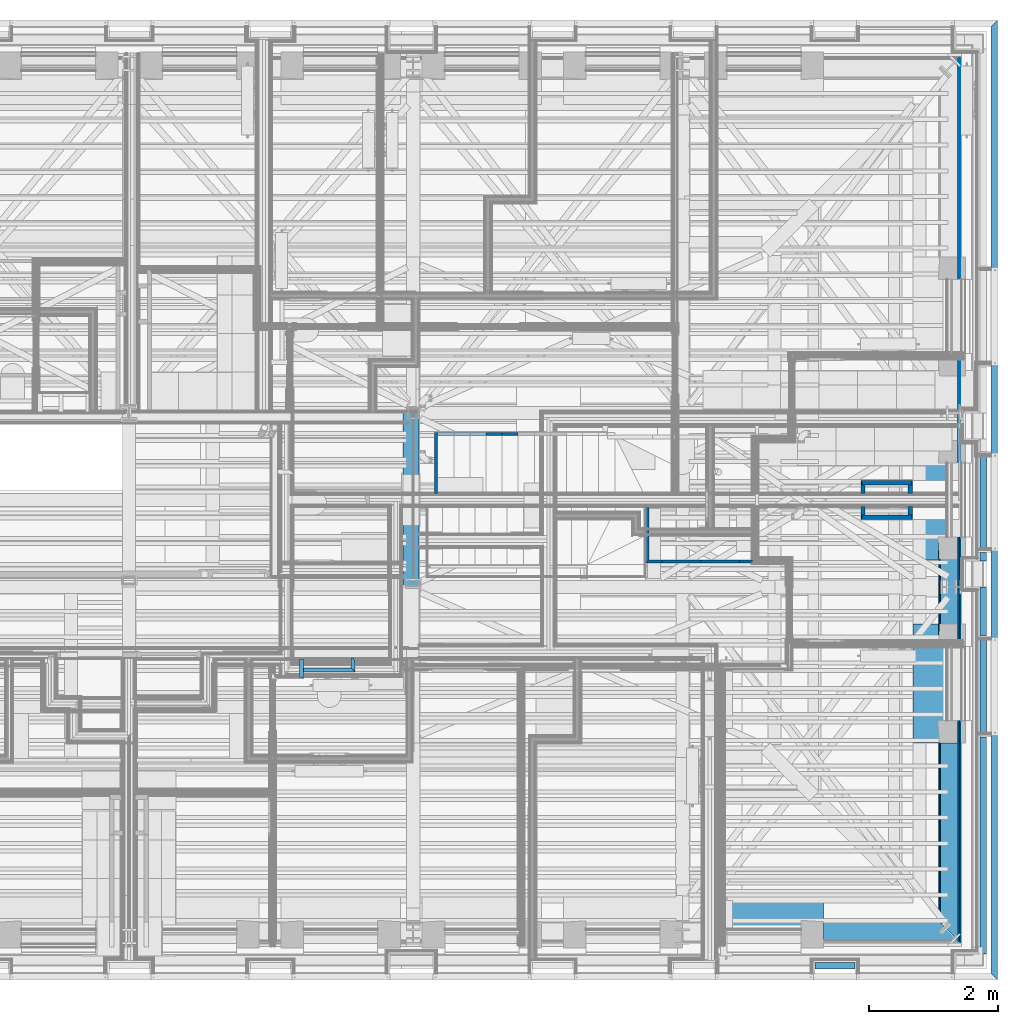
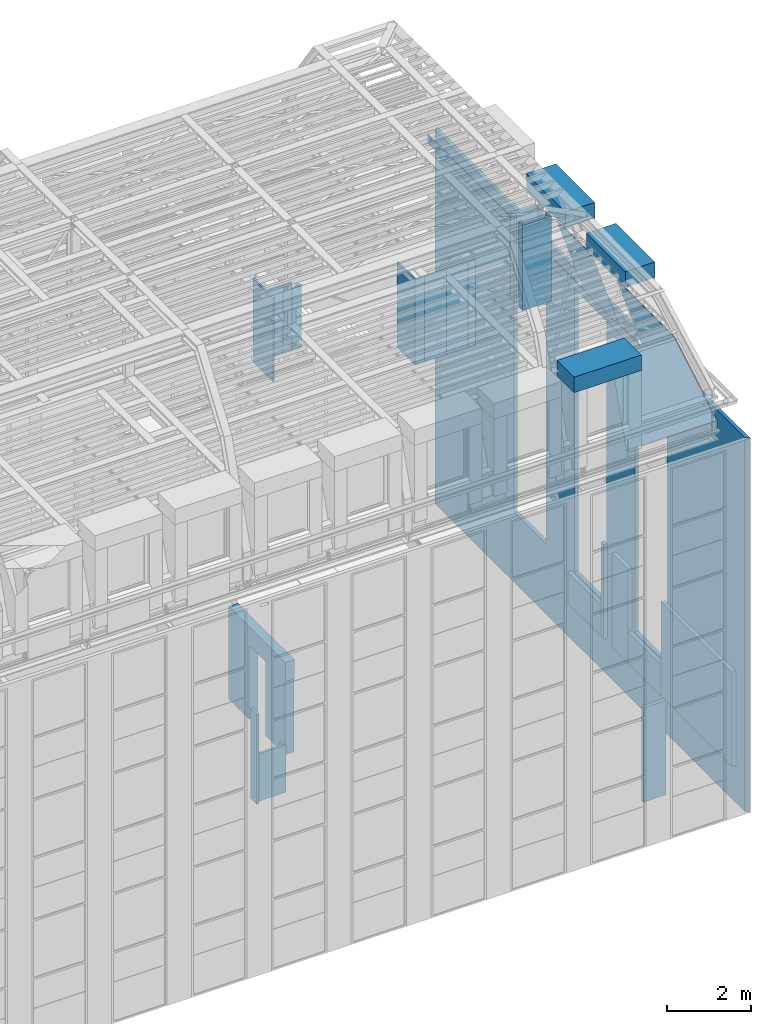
# One storey, part 20 of 183: 40 walls, 5 openings.
"""IFC2X3 building model written with IfcOpenShell, lengths in metres."""

from ifc_helpers import new_model, entity, si_unit, converted_unit, derived_unit, money_unit, direction, frame, frame_2d, origin_with_axes, place, context, subcontext, project, spatial, polyline, rectangle, outline, extrude, clip, halfspace, material, layer, layer_set, layer_usage, type_object, element, save


model = new_model("IFC2X3")

# Units and contexts
model_context = context("Model", 3, precision=1e-05, world=origin_with_axes(), true_north=direction((0.0, 1.0)))
body_context = subcontext(model_context, "Body", "Model", "MODEL_VIEW", scale=1.0)
ifc_project = project(units=[si_unit("LENGTHUNIT", "METRE"), si_unit("AREAUNIT", "SQUARE_METRE"), si_unit("VOLUMEUNIT", "CUBIC_METRE"), si_unit("ABSORBEDDOSEUNIT", "GRAY"), si_unit("AMOUNTOFSUBSTANCEUNIT", "MOLE"), si_unit("DOSEEQUIVALENTUNIT", "SIEVERT"), si_unit("ELECTRICCAPACITANCEUNIT", "FARAD"), si_unit("ELECTRICCHARGEUNIT", "COULOMB"), si_unit("ELECTRICCONDUCTANCEUNIT", "SIEMENS"), si_unit("ELECTRICCURRENTUNIT", "AMPERE"), si_unit("ELECTRICRESISTANCEUNIT", "OHM"), si_unit("ELECTRICVOLTAGEUNIT", "VOLT"), si_unit("ENERGYUNIT", "JOULE"), si_unit("FORCEUNIT", "NEWTON"), si_unit("FREQUENCYUNIT", "HERTZ"), si_unit("ILLUMINANCEUNIT", "LUX"), si_unit("INDUCTANCEUNIT", "HENRY"), si_unit("LUMINOUSFLUXUNIT", "LUMEN"), si_unit("LUMINOUSINTENSITYUNIT", "CANDELA"), si_unit("MAGNETICFLUXDENSITYUNIT", "TESLA"), si_unit("MAGNETICFLUXUNIT", "WEBER"), si_unit("MASSUNIT", "GRAM"), converted_unit("PLANEANGLEUNIT", "degree", entity("IfcReal", 0.0174532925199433), si_unit("PLANEANGLEUNIT", "RADIAN"), dimensions=[0, 0, 0, 0, 0, 0, 0]), si_unit("POWERUNIT", "WATT"), si_unit("PRESSUREUNIT", "PASCAL"), si_unit("RADIOACTIVITYUNIT", "BECQUEREL"), si_unit("SOLIDANGLEUNIT", "STERADIAN"), si_unit("THERMODYNAMICTEMPERATUREUNIT", "KELVIN"), si_unit("TIMEUNIT", "SECOND"), derived_unit("ACCELERATIONUNIT", [(si_unit("LENGTHUNIT", "METRE"), 1), (si_unit("TIMEUNIT", "SECOND"), -2)]), derived_unit("ANGULARVELOCITYUNIT", [(converted_unit("PLANEANGLEUNIT", "degree", entity("IfcReal", 0.0174532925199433), si_unit("PLANEANGLEUNIT", "RADIAN"), dimensions=[0, 0, 0, 0, 0, 0, 0]), 1), (si_unit("TIMEUNIT", "SECOND"), -1)]), derived_unit("CURVATUREUNIT", [(converted_unit("PLANEANGLEUNIT", "degree", entity("IfcReal", 0.0174532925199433), si_unit("PLANEANGLEUNIT", "RADIAN"), dimensions=[0, 0, 0, 0, 0, 0, 0]), 1), (si_unit("LENGTHUNIT", "METRE"), -1)]), derived_unit("DYNAMICVISCOSITYUNIT", [(si_unit("PRESSUREUNIT", "PASCAL"), 1), (si_unit("TIMEUNIT", "SECOND"), 1)]), derived_unit("HEATFLUXDENSITYUNIT", [(si_unit("POWERUNIT", "WATT"), 1), (si_unit("LENGTHUNIT", "METRE"), -2)]), derived_unit("HEATINGVALUEUNIT", [(si_unit("ENERGYUNIT", "JOULE"), 1), (si_unit("MASSUNIT", "GRAM"), -1)]), derived_unit("INTEGERCOUNTRATEUNIT", [(si_unit("TIMEUNIT", "SECOND"), -1)]), derived_unit("IONCONCENTRATIONUNIT", [(si_unit("MASSUNIT", "GRAM"), 1), (si_unit("VOLUMEUNIT", "CUBIC_METRE"), -1)]), derived_unit("ISOTHERMALMOISTURECAPACITYUNIT", [(si_unit("VOLUMEUNIT", "CUBIC_METRE"), 1), (si_unit("MASSUNIT", "GRAM"), -1)]), derived_unit("KINEMATICVISCOSITYUNIT", [(si_unit("AREAUNIT", "SQUARE_METRE"), 1), (si_unit("TIMEUNIT", "SECOND"), -1)]), derived_unit("LINEARFORCEUNIT", [(si_unit("FORCEUNIT", "NEWTON"), 1), (si_unit("LENGTHUNIT", "METRE"), -1)]), derived_unit("LINEARMOMENTUNIT", [(si_unit("FORCEUNIT", "NEWTON"), 1), (si_unit("LENGTHUNIT", "METRE"), -1)]), derived_unit("LINEARSTIFFNESSUNIT", [(si_unit("FORCEUNIT", "NEWTON"), 1), (si_unit("LENGTHUNIT", "METRE"), -1)]), derived_unit("LINEARVELOCITYUNIT", [(si_unit("LENGTHUNIT", "METRE"), 1), (si_unit("TIMEUNIT", "SECOND"), -1)]), derived_unit("LUMINOUSINTENSITYDISTRIBUTIONUNIT", [(si_unit("LUMINOUSINTENSITYUNIT", "CANDELA"), 1), (si_unit("LUMINOUSFLUXUNIT", "LUMEN"), -1)]), derived_unit("MASSDENSITYUNIT", [(si_unit("MASSUNIT", "GRAM"), 1), (si_unit("VOLUMEUNIT", "CUBIC_METRE"), -1)]), derived_unit("MASSFLOWRATEUNIT", [(si_unit("MASSUNIT", "GRAM"), 1), (si_unit("TIMEUNIT", "SECOND"), -1)]), derived_unit("MASSPERLENGTHUNIT", [(si_unit("MASSUNIT", "GRAM"), 1), (si_unit("LENGTHUNIT", "METRE"), -1)]), derived_unit("MODULUSOFELASTICITYUNIT", [(si_unit("FORCEUNIT", "NEWTON"), 1), (si_unit("AREAUNIT", "SQUARE_METRE"), -1)]), derived_unit("MODULUSOFLINEARSUBGRADEREACTIONUNIT", [(si_unit("FORCEUNIT", "NEWTON"), 1), (si_unit("LENGTHUNIT", "METRE"), -2)]), derived_unit("MODULUSOFROTATIONALSUBGRADEREACTIONUNIT", [(si_unit("FORCEUNIT", "NEWTON"), 1), (si_unit("LENGTHUNIT", "METRE"), 1)]), derived_unit("MODULUSOFSUBGRADEREACTIONUNIT", [(si_unit("FORCEUNIT", "NEWTON"), 1), (si_unit("VOLUMEUNIT", "CUBIC_METRE"), -1)]), derived_unit("MOISTUREDIFFUSIVITYUNIT", [(si_unit("VOLUMEUNIT", "CUBIC_METRE"), 1), (si_unit("TIMEUNIT", "SECOND"), -1)]), derived_unit("MOLECULARWEIGHTUNIT", [(si_unit("MASSUNIT", "GRAM"), 1), (si_unit("AMOUNTOFSUBSTANCEUNIT", "MOLE"), -1)]), derived_unit("PLANARFORCEUNIT", [(si_unit("FORCEUNIT", "NEWTON"), 1), (si_unit("LENGTHUNIT", "METRE"), -2)]), derived_unit("ROTATIONALFREQUENCYUNIT", [(si_unit("TIMEUNIT", "SECOND"), -1)]), derived_unit("ROTATIONALMASSUNIT", [(si_unit("MASSUNIT", "GRAM"), 1), (si_unit("LENGTHUNIT", "METRE"), 2)]), derived_unit("ROTATIONALSTIFFNESSUNIT", [(si_unit("FORCEUNIT", "NEWTON"), 1), (si_unit("LENGTHUNIT", "METRE"), 1), (converted_unit("PLANEANGLEUNIT", "degree", entity("IfcReal", 0.0174532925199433), si_unit("PLANEANGLEUNIT", "RADIAN"), dimensions=[0, 0, 0, 0, 0, 0, 0]), -1)]), derived_unit("SECTIONAREAINTEGRALUNIT", [(si_unit("LENGTHUNIT", "METRE"), 5)]), derived_unit("SECTIONMODULUSUNIT", [(si_unit("LENGTHUNIT", "METRE"), 3)]), derived_unit("SHEARMODULUSUNIT", [(si_unit("FORCEUNIT", "NEWTON"), 1), (si_unit("AREAUNIT", "SQUARE_METRE"), -1)]), derived_unit("SOUNDPOWERUNIT", [(si_unit("ENERGYUNIT", "JOULE"), 1), (si_unit("TIMEUNIT", "SECOND"), -1)]), derived_unit("SPECIFICHEATCAPACITYUNIT", [(si_unit("FORCEUNIT", "NEWTON"), 1), (si_unit("MASSUNIT", "GRAM"), -1), (si_unit("THERMODYNAMICTEMPERATUREUNIT", "KELVIN"), -1)]), derived_unit("TEMPERATUREGRADIENTUNIT", [(si_unit("THERMODYNAMICTEMPERATUREUNIT", "KELVIN"), 1), (si_unit("LENGTHUNIT", "METRE"), -1)]), derived_unit("THERMALADMITTANCEUNIT", [(si_unit("POWERUNIT", "WATT"), 1), (si_unit("AREAUNIT", "SQUARE_METRE"), -1), (si_unit("THERMODYNAMICTEMPERATUREUNIT", "KELVIN"), -1)]), derived_unit("THERMALCONDUCTANCEUNIT", [(si_unit("POWERUNIT", "WATT"), 1), (si_unit("LENGTHUNIT", "METRE"), -1), (si_unit("THERMODYNAMICTEMPERATUREUNIT", "KELVIN"), -1)]), derived_unit("THERMALEXPANSIONCOEFFICIENTUNIT", [(si_unit("THERMODYNAMICTEMPERATUREUNIT", "KELVIN"), -1)]), derived_unit("THERMALRESISTANCEUNIT", [(si_unit("AREAUNIT", "SQUARE_METRE"), 1), (si_unit("POWERUNIT", "WATT"), -1)]), derived_unit("THERMALTRANSMITTANCEUNIT", [(si_unit("POWERUNIT", "WATT"), 1), (si_unit("AREAUNIT", "SQUARE_METRE"), -1), (si_unit("THERMODYNAMICTEMPERATUREUNIT", "KELVIN"), -1)]), derived_unit("TORQUEUNIT", [(si_unit("FORCEUNIT", "NEWTON"), 1), (si_unit("LENGTHUNIT", "METRE"), 1)]), derived_unit("VAPORPERMEABILITYUNIT", [(si_unit("MASSUNIT", "GRAM"), 1), (si_unit("TIMEUNIT", "SECOND"), -1)]), derived_unit("VOLUMETRICFLOWRATEUNIT", [(si_unit("VOLUMEUNIT", "CUBIC_METRE"), 1), (si_unit("TIMEUNIT", "SECOND"), -1)]), derived_unit("WARPINGCONSTANTUNIT", [(si_unit("LENGTHUNIT", "METRE"), 6)]), derived_unit("WARPINGMOMENTUNIT", [(si_unit("FORCEUNIT", "NEWTON"), 1), (si_unit("LENGTHUNIT", "METRE"), 2)]), money_unit("GBP")], contexts=[model_context])

# Site, building, storey
site_placement = place(None, origin_with_axes())
site = spatial("IfcSite", under=ifc_project, at=site_placement, Name="Site", CompositionType="ELEMENT")
building_placement = place(site_placement, origin_with_axes())
building = spatial("IfcBuilding", under=site, at=building_placement, Name="Building01", CompositionType="ELEMENT")
storey_placement = place(building_placement, frame((0.0, 0.0, 5.15), z_axis=(0.0, 0.0, 1.0), x_axis=(1.0, 0.0, 0.0)))
storey = spatial("IfcBuildingStorey", under=building, at=storey_placement, Name="1F", CompositionType="ELEMENT", Elevation=5.15)

# Wall, openings
ifc_material_1 = material(Name="A_BSUK_WallsExternal_Brick")
ifc_layer_1 = layer(ifc_material_1, 0.1, ventilated=False)
ifc_layer_set_1 = layer_set([ifc_layer_1])
ifc_layer_usage_1 = layer_usage(ifc_layer_set_1, "AXIS2", "POSITIVE", 0.0)
wall_type_1 = type_object("IfcWallType", Name="A-Walls-ExternalBrick", PredefinedType="NOTDEFINED")
wall_1_placement = place(storey_placement, frame((26.88, 0.1, -1.18), z_axis=(0.0, 0.0, 1.0), x_axis=(0.0, 1.0, 0.0)))
wall_1 = element("IfcWallStandardCase", 1, at=wall_1_placement, inside=storey, type_object=wall_type_1, material=ifc_layer_usage_1, Name="A-Walls-ExternalBrick", ObjectType="A-Walls-ExternalBrick", context=body_context, shape_type="SweptSolid", body=[
    extrude(outline(polyline([(14.7, 0.0), (0.0, 0.0), (-0.1, -0.1), (14.8, -0.1), (14.7, 0.0)])), origin_with_axes(), (0.0, 0.0, 1.0), 10.850238),
])
opening_1_placement = place(wall_1_placement, frame((9.43718, -0.1, 2.045508), z_axis=(0.0, 0.0, 1.0), x_axis=(1.0, 0.0, 0.0)))
element("IfcOpeningElement", 2, at=opening_1_placement, cuts=wall_1, Name="Opening", ObjectType="Opening", context=body_context, shape_type="SweptSolid", body=[
    extrude(rectangle(XDim=1.52, YDim=8.7, at=frame_2d((-0.76, 4.35), x_axis=(-1.0, 0.0))), frame((0.0, 0.0, 0.0), z_axis=(0.0, 1.0, 0.0), x_axis=(-1.0, 0.0, 0.0)), (0.0, 0.0, 1.0), 0.1),
])
opening_2_placement = place(wall_1_placement, frame((3.69718, -0.1, 2.045508), z_axis=(0.0, 0.0, 1.0), x_axis=(1.0, 0.0, 0.0)))
element("IfcOpeningElement", 3, at=opening_2_placement, cuts=wall_1, Name="Opening", ObjectType="Opening", context=body_context, shape_type="SweptSolid", body=[
    extrude(rectangle(XDim=1.52, YDim=8.7, at=frame_2d((-0.76, 4.35), x_axis=(-1.0, 0.0))), frame((0.0, 0.0, 0.0), z_axis=(0.0, 1.0, 0.0), x_axis=(-1.0, 0.0, 0.0)), (0.0, 0.0, 1.0), 0.1),
])
opening_3_placement = place(wall_1_placement, frame((6.557326, -0.1, 2.050108), z_axis=(0.0, 0.0, 1.0), x_axis=(1.0, 0.0, 0.0)))
element("IfcOpeningElement", 4, at=opening_3_placement, cuts=wall_1, Name="Opening", ObjectType="Opening", context=body_context, shape_type="SweptSolid", body=[
    extrude(rectangle(XDim=1.52, YDim=8.7, at=frame_2d((-0.76, 4.35), x_axis=(-1.0, 0.0))), frame((0.0, 0.0, 0.0), z_axis=(0.0, 1.0, 0.0), x_axis=(-1.0, 0.0, 0.0)), (0.0, 0.0, 1.0), 0.1),
])

# Walls
ifc_material_2 = material(Name="A_BSUK_WallsExternal_Block")
ifc_layer_2 = layer(ifc_material_2, 0.1, ventilated=False)
ifc_layer_set_2 = layer_set([ifc_layer_2])
ifc_layer_usage_2 = layer_usage(ifc_layer_set_2, "AXIS2", "POSITIVE", 0.0)
wall_type_2 = type_object("IfcWallType", Name="A-Walls-ExternalBlock", PredefinedType="NOTDEFINED")
wall_2_placement = place(storey_placement, frame((24.767, 0.27, 0.0), z_axis=(0.0, 0.0, 1.0), x_axis=(-1.0, 0.0, 0.0)))
element("IfcWallStandardCase", 5, at=wall_2_placement, inside=storey, type_object=wall_type_2, material=ifc_layer_usage_2, Name="A-Walls-ExternalBlock", ObjectType="A-Walls-ExternalBlock", context=body_context, shape_type="SweptSolid", body=[
    extrude(rectangle(XDim=0.624, YDim=0.1, at=frame_2d((0.312, 0.05), x_axis=(-1.0, 0.0))), origin_with_axes(), (0.0, 0.0, 1.0), 2.74),
])
wall_3_placement = place(storey_placement, frame((26.71, 3.77418, 0.0), z_axis=(0.0, 0.0, 1.0), x_axis=(0.0, -1.0, 0.0)))
element("IfcWallStandardCase", 6, at=wall_3_placement, inside=storey, type_object=wall_type_2, material=ifc_layer_usage_2, Name="A-Walls-ExternalBlock", ObjectType="A-Walls-ExternalBlock", context=body_context, shape_type="SweptSolid", body=[
    extrude(rectangle(XDim=0.1, YDim=3.37418, at=frame_2d((1.68709, 0.05), x_axis=(0.0, -1.0))), origin_with_axes(), (0.0, 0.0, 1.0), 2.74),
])
wall_4_placement = place(storey_placement, frame((26.71, 6.634304, 0.0), z_axis=(0.0, 0.0, 1.0), x_axis=(0.0, -1.0, 0.0)))
element("IfcWallStandardCase", 7, at=wall_4_placement, inside=storey, type_object=wall_type_2, material=ifc_layer_usage_2, Name="A-Walls-ExternalBlock", ObjectType="A-Walls-ExternalBlock", context=body_context, shape_type="SweptSolid", body=[
    extrude(rectangle(XDim=0.1, YDim=0.134304, at=frame_2d((0.067152, 0.05), x_axis=(0.0, -1.0))), origin_with_axes(), (0.0, 0.0, 1.0), 2.74),
])
wall_5_placement = place(storey_placement, frame((26.71, 6.1, 0.0), z_axis=(0.0, 0.0, 1.0), x_axis=(0.0, -1.0, 0.0)))
element("IfcWallStandardCase", 8, at=wall_5_placement, inside=storey, type_object=wall_type_2, material=ifc_layer_usage_2, Name="A-Walls-ExternalBlock", ObjectType="A-Walls-ExternalBlock", context=body_context, shape_type="SweptSolid", body=[
    extrude(rectangle(XDim=0.75982, YDim=0.1, at=frame_2d((0.37991, 0.05), x_axis=(-1.0, 0.0))), origin_with_axes(), (0.0, 0.0, 1.0), 2.74),
])
wall_6_placement = place(storey_placement, frame((26.71, 5.34018, 0.0), z_axis=(0.0, 0.0, 1.0), x_axis=(0.0, -1.0, 0.0)))
element("IfcWallStandardCase", 9, at=wall_6_placement, inside=storey, type_object=wall_type_2, material=ifc_layer_usage_2, Name="A-Walls-ExternalBlock", ObjectType="A-Walls-ExternalBlock", context=body_context, shape_type="SweptSolid", body=[
    extrude(rectangle(XDim=1.566, YDim=0.1, at=frame_2d((0.783, 0.05), x_axis=(1.0, 0.0))), origin_with_axes(), (0.0, 0.0, 1.0), 0.915),
])
wall_7_placement = place(storey_placement, frame((26.71, 8.200304, 0.0), z_axis=(0.0, 0.0, 1.0), x_axis=(0.0, -1.0, 0.0)))
element("IfcWallStandardCase", 10, at=wall_7_placement, inside=storey, type_object=wall_type_2, material=ifc_layer_usage_2, Name="A-Walls-ExternalBlock", ObjectType="A-Walls-ExternalBlock", context=body_context, shape_type="SweptSolid", body=[
    extrude(rectangle(XDim=1.565978, YDim=0.1, at=frame_2d((0.782989, 0.05), x_axis=(1.0, 0.0))), origin_with_axes(), (0.0, 0.0, 1.0), 0.915),
])
ifc_material_3 = material(Name="A_BSUK_WallsInternal")
ifc_layer_3 = layer(ifc_material_3, 0.025, ventilated=False)
ifc_layer_set_3 = layer_set([ifc_layer_3])
ifc_layer_usage_3 = layer_usage(ifc_layer_set_3, "AXIS2", "POSITIVE", 0.0)
wall_type_3 = type_object("IfcWallType", Name="A-Walls-Internal", PredefinedType="NOTDEFINED")
wall_8_placement = place(storey_placement, frame((26.4012, 7.45, 9.78), z_axis=(0.0, 0.0, 1.0), x_axis=(0.0, -1.0, 0.0)))
element("IfcWallStandardCase", 11, at=wall_8_placement, inside=storey, type_object=wall_type_3, material=ifc_layer_usage_3, Name="7C", ObjectType="A-Walls-Internal", context=body_context, shape_type="SweptSolid", body=[
    extrude(outline(polyline([(6.8712, 0.0), (0.0, 0.0), (0.0, -0.025), (6.8462, -0.025), (6.8712, 0.0)])), origin_with_axes(), (0.0, 0.0, 1.0), 0.25),
])
ifc_layer_4 = layer(ifc_material_3, 0.05, ventilated=False)
ifc_layer_set_4 = layer_set([ifc_layer_4])
ifc_layer_usage_4 = layer_usage(ifc_layer_set_4, "AXIS2", "POSITIVE", 0.0)
wall_9_placement = place(storey_placement, frame((18.289976, 7.549915, 9.78), z_axis=(0.0, 0.0, 1.0), x_axis=(0.0, 1.0, 0.0)))
element("IfcWallStandardCase", 12, at=wall_9_placement, inside=storey, type_object=wall_type_3, material=ifc_layer_usage_4, Name="A-Walls-Internal", ObjectType="A-Walls-Internal", context=body_context, shape_type="SweptSolid", body=[
    extrude(rectangle(XDim=0.05, YDim=0.95, at=frame_2d((0.475, 0.025), x_axis=(0.0, -1.0))), origin_with_axes(), (0.0, 0.0, 1.0), 2.443),
])
wall_10_placement = place(storey_placement, frame((19.039976, 8.449915, 9.78), z_axis=(0.0, 0.0, 1.0), x_axis=(1.0, 0.0, 0.0)))
element("IfcWallStandardCase", 13, at=wall_10_placement, inside=storey, type_object=wall_type_3, material=ifc_layer_usage_4, Name="A-Walls-Internal", ObjectType="A-Walls-Internal", context=body_context, shape_type="SweptSolid", body=[
    extrude(rectangle(XDim=0.25, YDim=0.05, at=frame_2d((0.125, 0.025), x_axis=(1.0, 0.0))), origin_with_axes(), (0.0, 0.0, 1.0), 1.98),
])
wall_11_placement = place(storey_placement, frame((18.289976, 8.449915, 9.78), z_axis=(0.0, 0.0, 1.0), x_axis=(1.0, 0.0, 0.0)))
element("IfcWallStandardCase", 14, at=wall_11_placement, inside=storey, type_object=wall_type_3, material=ifc_layer_usage_4, Name="A-Walls-Internal", ObjectType="A-Walls-Internal", context=body_context, shape_type="SweptSolid", body=[
    extrude(rectangle(XDim=0.05, YDim=0.75, at=frame_2d((0.375, 0.025), x_axis=(0.0, -1.0))), origin_with_axes(), (0.0, 0.0, 1.0), 1.98),
])
wall_12_placement = place(storey_placement, frame((19.289976, 8.449915, 9.78), z_axis=(0.0, 0.0, 1.0), x_axis=(1.0, 0.0, 0.0)))
element("IfcWallStandardCase", 15, at=wall_12_placement, inside=storey, type_object=wall_type_3, material=ifc_layer_usage_4, Name="A-Walls-Internal", ObjectType="A-Walls-Internal", context=body_context, shape_type="SweptSolid", body=[
    extrude(rectangle(XDim=0.25, YDim=0.05, at=frame_2d((0.125, 0.025), x_axis=(1.0, 0.0))), origin_with_axes(), (0.0, 0.0, 1.0), 1.8),
])
wall_13_placement = place(storey_placement, frame((21.51844, 7.334915, 9.78), z_axis=(0.0, 0.0, 1.0), x_axis=(0.0, -1.0, 0.0)))
element("IfcWallStandardCase", 16, at=wall_13_placement, inside=storey, type_object=wall_type_3, material=ifc_layer_usage_4, Name="A-Walls-Internal", ObjectType="A-Walls-Internal", context=body_context, shape_type="SweptSolid", body=[
    extrude(outline(polyline([(0.81483, 0.05), (0.0, 0.05), (0.0, 0.0), (0.86483, 0.0), (0.81483, 0.05)])), origin_with_axes(), (0.0, 0.0, 1.0), 2.468),
])
wall_14_placement = place(storey_placement, frame((21.51844, 6.470085, 9.78), z_axis=(0.0, 0.0, 1.0), x_axis=(1.0, 0.0, 0.0)))
element("IfcWallStandardCase", 17, at=wall_14_placement, inside=storey, type_object=wall_type_3, material=ifc_layer_usage_4, Name="A-Walls-Internal", ObjectType="A-Walls-Internal", context=body_context, shape_type="SweptSolid", body=[
    extrude(outline(polyline([(0.05, 0.05), (0.0, 0.0), (0.255191, 0.0), (0.255191, 0.05), (0.05, 0.05)])), origin_with_axes(), (0.0, 0.0, 1.0), 2.468),
])
for number, where, z_axis, x_axis, name in (
    (18, (21.773631, 6.470085, 9.78), (0.0, 0.0, 1.0), (1.0, 0.0, 0.0), "A-Walls-Internal"),
    (19, (22.373631, 6.470085, 9.78), (0.0, 0.0, 1.0), (1.0, 0.0, 0.0), "A-Walls-Internal"),
):
    element("IfcWallStandardCase", number, at=place(storey_placement, frame(where, z_axis=z_axis, x_axis=x_axis)), inside=storey, type_object=wall_type_3, material=ifc_layer_usage_4, Name=name, ObjectType="A-Walls-Internal", context=body_context, shape_type="SweptSolid", body=[
        extrude(rectangle(XDim=0.6, YDim=0.05, at=frame_2d((0.3, 0.025), x_axis=(1.0, 0.0))), origin_with_axes(), (0.0, 0.0, 1.0), 2.468),
    ])
wall_15_placement = place(storey_placement, frame((22.973631, 6.470085, 9.78), z_axis=(0.0, 0.0, 1.0), x_axis=(1.0, 0.0, 0.0)))
element("IfcWallStandardCase", 20, at=wall_15_placement, inside=storey, type_object=wall_type_3, material=ifc_layer_usage_4, Name="A-Walls-Internal", ObjectType="A-Walls-Internal", context=body_context, shape_type="SweptSolid", body=[
    extrude(rectangle(XDim=0.205191, YDim=0.05, at=frame_2d((0.102595, 0.025), x_axis=(-1.0, 0.0))), origin_with_axes(), (0.0, 0.0, 1.0), 2.468),
])
ifc_layer_5 = layer(ifc_material_3, 0.015, ventilated=False)
ifc_layer_set_5 = layer_set([ifc_layer_5])
ifc_layer_usage_5 = layer_usage(ifc_layer_set_5, "AXIS2", "POSITIVE", 0.0)
wall_16_placement = place(storey_placement, frame((26.4012, 14.3062, 9.78), z_axis=(0.0, 0.0, 1.0), x_axis=(0.0, -1.0, 0.0)))
element("IfcWallStandardCase", 21, at=wall_16_placement, inside=storey, type_object=wall_type_3, material=ifc_layer_usage_5, Name="7C", ObjectType="A-Walls-Internal", context=body_context, shape_type="SweptSolid", body=[
    extrude(rectangle(XDim=13.7124, YDim=0.015, at=frame_2d((6.8562, -0.0075), x_axis=(-1.0, 0.0))), origin_with_axes(), (0.0, 0.0, 1.0), 0.25),
])
wall_17_placement = place(storey_placement, frame((26.3862, 14.2912, 9.78), z_axis=(0.0, 0.0, 1.0), x_axis=(0.0, -1.0, 0.0)))
element("IfcWallStandardCase", 22, at=wall_17_placement, inside=storey, type_object=wall_type_3, material=ifc_layer_usage_5, Name="7C", ObjectType="A-Walls-Internal", context=body_context, shape_type="SweptSolid", body=[
    extrude(rectangle(XDim=13.6824, YDim=0.015, at=frame_2d((6.8412, -0.0075), x_axis=(-1.0, 0.0))), origin_with_axes(), (0.0, 0.0, 1.0), 0.25),
])
ifc_material_4 = material(Name="A_BSUK_Walls_Timber")
ifc_layer_6 = layer(ifc_material_4, 0.015, ventilated=False)
ifc_material_5 = material(Name="A_BSUK_OpeningsClearance")
ifc_layer_7 = layer(ifc_material_5, 0.05, ventilated=False)
ifc_layer_set_6 = layer_set([ifc_layer_6, ifc_layer_7])
ifc_layer_usage_6 = layer_usage(ifc_layer_set_6, "AXIS2", "POSITIVE", 0.0)
wall_type_4 = type_object("IfcWallType", Name="SHE_A-Walls_Type05c_PreWallShell_65mm", PredefinedType="NOTDEFINED")
wall_18_placement = place(storey_placement, frame((16.9425, 4.845, 0.0), z_axis=(0.0, 0.0, 1.0), x_axis=(0.0, 1.0, 0.0)))
element("IfcWallStandardCase", 23, at=wall_18_placement, inside=storey, type_object=wall_type_4, material=ifc_layer_usage_6, Name="5C", ObjectType="SHE_A-Walls_Type05c_PreWallShell_65mm", context=body_context, shape_type="SweptSolid", body=[
    extrude(outline(polyline([(0.12, -0.05), (0.15, -0.05), (0.15, 0.0), (0.0, 0.0), (-0.065, -0.065), (0.12, -0.065), (0.12, -0.05)])), origin_with_axes(), (0.0, 0.0, 1.0), 1.375),
])
wall_19_placement = place(storey_placement, frame((16.2075, 4.845, 0.0), z_axis=(0.0, 0.0, 1.0), x_axis=(1.0, 0.0, 0.0)))
element("IfcWallStandardCase", 24, at=wall_19_placement, inside=storey, type_object=wall_type_4, material=ifc_layer_usage_6, Name="5C", ObjectType="SHE_A-Walls_Type05c_PreWallShell_65mm", context=body_context, shape_type="SweptSolid", body=[
    extrude(outline(polyline([(0.735, 0.0), (0.0, 0.0), (0.0, -0.065), (0.8, -0.065), (0.735, 0.0)])), origin_with_axes(), (0.0, 0.0, 1.0), 1.375),
])
wall_20_placement = place(storey_placement, frame((16.1425, 4.695, 0.0), z_axis=(0.0, 0.0, 1.0), x_axis=(0.0, 1.0, 0.0)))
element("IfcWallStandardCase", 25, at=wall_20_placement, inside=storey, type_object=wall_type_4, material=ifc_layer_usage_6, Name="5C", ObjectType="SHE_A-Walls_Type05c_PreWallShell_65mm", context=body_context, shape_type="SweptSolid", body=[
    extrude(outline(polyline([(0.285, 0.0), (0.0, 0.0), (0.0, -0.05), (-0.015, -0.05), (-0.015, -0.065), (0.285, -0.065), (0.285, 0.0)])), origin_with_axes(), (0.0, 0.0, 1.0), 2.615),
])
ifc_layer_set_7 = layer_set([ifc_layer_7, ifc_layer_6])
ifc_layer_usage_7 = layer_usage(ifc_layer_set_7, "AXIS2", "POSITIVE", 0.0)
wall_21_placement = place(storey_placement, frame((24.873821, 7.684913, 9.78), z_axis=(0.0, 0.0, 1.0), x_axis=(1.0, 0.0, 0.0)))
element("IfcWallStandardCase", 26, at=wall_21_placement, inside=storey, type_object=wall_type_4, material=ifc_layer_usage_7, Name="5C", ObjectType="SHE_A-Walls_Type05c_PreWallShell_65mm", context=body_context, shape_type="SweptSolid", body=[
    extrude(outline(polyline([(0.77, 0.05), (0.785, 0.05), (0.785, 0.065), (-0.015, 0.065), (-0.015, 0.05), (0.0, 0.05), (0.0, 0.0), (0.77, 0.0), (0.77, 0.05)])), origin_with_axes(), (0.0, 0.0, 1.0), 2.468),
])
wall_22_placement = place(storey_placement, frame((24.923821, 7.549915, 9.78), z_axis=(0.0, 0.0, 1.0), x_axis=(0.0, 1.0, 0.0)))
element("IfcWallStandardCase", 27, at=wall_22_placement, inside=storey, type_object=wall_type_4, material=ifc_layer_usage_7, Name="5C", ObjectType="SHE_A-Walls_Type05c_PreWallShell_65mm", context=body_context, shape_type="SweptSolid", body=[
    extrude(outline(polyline([(0.134998, 0.05), (0.184998, 0.05), (0.184998, 0.065), (0.0, 0.065), (0.0, 0.0), (0.134998, 0.0), (0.134998, 0.05)])), origin_with_axes(), (0.0, 0.0, 1.0), 2.468),
])
wall_23_placement = place(storey_placement, frame((25.593821, 7.549915, 9.78), z_axis=(0.0, 0.0, 1.0), x_axis=(0.0, 1.0, 0.0)))
element("IfcWallStandardCase", 28, at=wall_23_placement, inside=storey, type_object=wall_type_4, material=ifc_layer_usage_6, Name="5C", ObjectType="SHE_A-Walls_Type05c_PreWallShell_65mm", context=body_context, shape_type="SweptSolid", body=[
    extrude(outline(polyline([(0.134998, -0.05), (0.134998, 0.0), (0.0, 0.0), (0.0, -0.065), (0.184998, -0.065), (0.184998, -0.05), (0.134998, -0.05)])), origin_with_axes(), (0.0, 0.0, 1.0), 2.468),
])
placement_1 = place(storey_placement, frame((24.873821, 7.214966, 9.78), z_axis=(0.0, 0.0, 1.0), x_axis=(1.0, 0.0, 0.0)))
element("IfcWallStandardCase", 29, at=placement_1, inside=storey, type_object=wall_type_4, material=ifc_layer_usage_6, Name="5C", ObjectType="SHE_A-Walls_Type05c_PreWallShell_65mm", context=body_context, shape_type="SweptSolid", body=[
    extrude(outline(polyline([(0.77, -0.05), (0.77, 0.0), (0.0, 0.0), (0.0, -0.05), (-0.015, -0.05), (-0.015, -0.065), (0.785, -0.065), (0.785, -0.05), (0.77, -0.05)])), origin_with_axes(), (0.0, 0.0, 1.0), 2.468),
])
placement_2 = place(storey_placement, frame((24.923821, 7.349915, 9.78), z_axis=(0.0, 0.0, 1.0), x_axis=(0.0, -1.0, 0.0)))
element("IfcWallStandardCase", 30, at=placement_2, inside=storey, type_object=wall_type_4, material=ifc_layer_usage_6, Name="5C", ObjectType="SHE_A-Walls_Type05c_PreWallShell_65mm", context=body_context, shape_type="SweptSolid", body=[
    extrude(outline(polyline([(0.134949, -0.05), (0.134949, 0.0), (0.0, 0.0), (0.0, -0.065), (0.184949, -0.065), (0.184949, -0.05), (0.134949, -0.05)])), origin_with_axes(), (0.0, 0.0, 1.0), 2.468),
])
placement_3 = place(storey_placement, frame((25.593821, 7.349915, 9.78), z_axis=(0.0, 0.0, 1.0), x_axis=(0.0, -1.0, 0.0)))
element("IfcWallStandardCase", 31, at=placement_3, inside=storey, type_object=wall_type_4, material=ifc_layer_usage_7, Name="5C", ObjectType="SHE_A-Walls_Type05c_PreWallShell_65mm", context=body_context, shape_type="SweptSolid", body=[
    extrude(outline(polyline([(0.134949, 0.05), (0.184949, 0.05), (0.184949, 0.065), (0.0, 0.065), (0.0, 0.0), (0.134949, 0.0), (0.134949, 0.05)])), origin_with_axes(), (0.0, 0.0, 1.0), 2.468),
])
element("IfcWallStandardCase", 32, at=placement_1, inside=storey, type_object=wall_type_4, material=ifc_layer_usage_6, Name="5C", ObjectType="SHE_A-Walls_Type05c_PreWallShell_65mm", context=body_context, shape_type="SweptSolid", body=[
    extrude(outline(polyline([(0.77, -0.05), (0.77, 0.0), (0.0, 0.0), (0.0, -0.05), (-0.015, -0.05), (-0.015, -0.065), (0.785, -0.065), (0.785, -0.05), (0.77, -0.05)])), origin_with_axes(), (0.0, 0.0, 1.0), 2.468),
])
element("IfcWallStandardCase", 33, at=placement_2, inside=storey, type_object=wall_type_4, material=ifc_layer_usage_6, Name="5C", ObjectType="SHE_A-Walls_Type05c_PreWallShell_65mm", context=body_context, shape_type="SweptSolid", body=[
    extrude(outline(polyline([(0.134949, -0.05), (0.134949, 0.0), (0.0, 0.0), (0.0, -0.065), (0.184949, -0.065), (0.184949, -0.05), (0.134949, -0.05)])), origin_with_axes(), (0.0, 0.0, 1.0), 2.468),
])
element("IfcWallStandardCase", 34, at=placement_3, inside=storey, type_object=wall_type_4, material=ifc_layer_usage_7, Name="5C", ObjectType="SHE_A-Walls_Type05c_PreWallShell_65mm", context=body_context, shape_type="SweptSolid", body=[
    extrude(outline(polyline([(0.134949, 0.05), (0.184949, 0.05), (0.184949, 0.065), (0.0, 0.065), (0.0, 0.0), (0.134949, 0.0), (0.134949, 0.05)])), origin_with_axes(), (0.0, 0.0, 1.0), 2.468),
])
ifc_material_6 = material(Name="A_BSUK_Roofs")
wall_type_5 = type_object("IfcWallType", Name="A-Walls-ExternalBlock", PredefinedType="NOTDEFINED")
wall_30_placement = place(storey_placement, frame((22.430024, 1.31, 12.729998), z_axis=(1.0, 0.0, 0.0), x_axis=(0.0, -1.0, 0.0)))
element("IfcWall", 35, at=wall_30_placement, inside=storey, type_object=wall_type_5, material=ifc_material_6, Name="7C", ObjectType="A-Walls-ExternalBlock", context=body_context, shape_type="SweptSolid", body=[
    extrude(rectangle(XDim=0.81, YDim=0.45, at=frame_2d((0.405, 0.225), x_axis=(1.0, 0.0))), origin_with_axes(), (0.0, 0.0, 1.0), 1.849951),
])
for number, where, z_axis, x_axis, name in (
    (36, (25.670061, 5.524891, 12.729998), (0.0, -1.0, 0.0), (-1.0, 0.0, 0.0), "7C"),
    (37, (25.670061, 8.374891, 12.729998), (0.0, -1.0, 0.0), (-1.0, 0.0, 0.0), "7C"),
):
    element("IfcWall", number, at=place(storey_placement, frame(where, z_axis=z_axis, x_axis=x_axis)), inside=storey, type_object=wall_type_5, material=ifc_material_6, Name=name, ObjectType="A-Walls-ExternalBlock", context=body_context, shape_type="SweptSolid", body=[
        extrude(rectangle(XDim=0.81, YDim=0.45, at=frame_2d((-0.405, 0.225), x_axis=(-1.0, 0.0))), origin_with_axes(), (0.0, 0.0, 1.0), 1.849951),
    ])

# Wall, openings
ifc_material_7 = material(Name="A_BSUK_Walls_Concrete")
ifc_layer_8 = layer(ifc_material_7, 0.25, ventilated=False)
ifc_layer_set_8 = layer_set([ifc_layer_8])
ifc_layer_usage_8 = layer_usage(ifc_layer_set_8, "AXIS2", "POSITIVE", 0.0)
wall_type_6 = type_object("IfcWallType", Name="A-Walls-Concrete", PredefinedType="NOTDEFINED")
wall_31_placement = place(storey_placement, frame((17.875, 8.8, 0.0), z_axis=(0.0, 0.0, 1.0), x_axis=(0.0, -1.0, 0.0)))
wall_31 = element("IfcWallStandardCase", 38, at=wall_31_placement, inside=storey, type_object=wall_type_6, material=ifc_layer_usage_8, Name="A-Walls-Concrete", ObjectType="A-Walls-Concrete", context=body_context, shape_type="SweptSolid", body=[
    extrude(rectangle(XDim=2.7, YDim=0.25, at=frame_2d((1.35, 0.0), x_axis=(1.0, 0.0))), origin_with_axes(), (0.0, 0.0, 1.0), 2.7),
])
opening_4_placement = place(wall_31_placement, frame((2.666, -0.125, 0.0), z_axis=(0.0, 0.0, 1.0), x_axis=(1.0, 0.0, 0.0)))
element("IfcOpeningElement", 39, at=opening_4_placement, cuts=wall_31, Name="Opening", ObjectType="Opening", context=body_context, shape_type="SweptSolid", body=[
    extrude(rectangle(XDim=2.142, YDim=0.984, at=frame_2d((-0.492, 1.071), x_axis=(0.0, -1.0))), frame((0.0, 0.0, 0.0), z_axis=(0.0, 1.0, 0.0), x_axis=(-1.0, 0.0, 0.0)), (0.0, 0.0, 1.0), 0.25),
])
opening_5_placement = place(wall_31_placement, frame((0.958, -0.125, 0.0), z_axis=(0.0, 0.0, 1.0), x_axis=(1.0, 0.0, 0.0)))
element("IfcOpeningElement", 40, at=opening_5_placement, cuts=wall_31, Name="Opening", ObjectType="Opening", context=body_context, shape_type="SweptSolid", body=[
    extrude(rectangle(XDim=2.142, YDim=0.784, at=frame_2d((-0.392, 1.071), x_axis=(0.0, -1.0))), frame((0.0, 0.0, 0.0), z_axis=(0.0, 1.0, 0.0), x_axis=(-1.0, 0.0, 0.0)), (0.0, 0.0, 1.0), 0.25),
])

# Walls
wall_type_7 = type_object("IfcWallType", Name="A-Walls-Internal", PredefinedType="NOTDEFINED")
wall_32_placement = place(storey_placement, frame((26.4012, 3.774915, 10.03), z_axis=(-0.30901699, 0.0, 0.95105652), x_axis=(0.0, -1.0, 0.0)))
element("IfcWall", 41, at=wall_32_placement, inside=storey, type_object=wall_type_7, material=ifc_material_3, Name="7C", ObjectType="A-Walls-Internal", context=body_context, shape_type="Clipping", body=[
    clip(extrude(outline(polyline([(3.196115, 0.0), (0.0, 0.0), (0.0, -0.015), (3.181849, -0.015), (3.196115, 0.0)])), origin_with_axes(), (0.0, 0.0, 1.0), 2.373987), halfspace(frame((1.598058, -1.519843, 0.493827), z_axis=(-0.70710678, 0.67249851, -0.21850801), x_axis=(-0.68915176, -0.72461704, 0.0)), True)),
])
wall_33_placement = place(storey_placement, frame((26.4012, 6.624964, 10.03), z_axis=(-0.30901699, 0.0, 0.95105652), x_axis=(0.0, -1.0, 0.0)))
element("IfcWall", 42, at=wall_33_placement, inside=storey, type_object=wall_type_7, material=ifc_material_3, Name="7C", ObjectType="A-Walls-Internal", context=body_context, shape_type="SweptSolid", body=[
    extrude(rectangle(XDim=1.200049, YDim=0.015, at=frame_2d((0.600024, -0.0075), x_axis=(-1.0, 0.0))), origin_with_axes(), (0.0, 0.0, 1.0), 2.373987),
])
wall_34_placement = place(storey_placement, frame((26.385572, 0.594428, 10.029557), z_axis=(0.0, 0.30901699, 0.95105652), x_axis=(-1.0, 0.0, 0.0)))
element("IfcWall", 43, at=wall_34_placement, inside=storey, type_object=wall_type_7, material=ifc_material_3, Name="7C", ObjectType="A-Walls-Internal", context=body_context, shape_type="Clipping", body=[
    clip(extrude(outline(polyline([(2.205596, 0.0), (0.0, 0.0), (0.014266, -0.015), (2.455596, -0.015), (2.205596, 0.0)])), origin_with_axes(), (0.0, 0.0, 1.0), 2.373987), halfspace(frame((0.0, 0.0, 0.0), z_axis=(0.70710678, 0.67249851, -0.21850801), x_axis=(-0.68915176, 0.72461704, 0.0)), True)),
])
wall_35_placement = place(storey_placement, frame((26.385572, 3.774964, 10.029557), z_axis=(-0.30901699, 0.0, 0.95105652), x_axis=(0.0, -1.0, 0.0)))
element("IfcWall", 44, at=wall_35_placement, inside=storey, type_object=wall_type_7, material=ifc_material_3, Name="7C", ObjectType="A-Walls-Internal", context=body_context, shape_type="Clipping", body=[
    clip(extrude(outline(polyline([(3.180536, 0.0), (0.0, 0.0), (-0.25, -0.015), (3.16627, -0.015), (3.180536, 0.0)])), origin_with_axes(), (0.0, 0.0, 1.0), 2.373987), halfspace(frame((1.590268, -1.512435, 0.49142), z_axis=(-0.70710678, 0.67249851, -0.21850801), x_axis=(-0.68915176, -0.72461704, 0.0)), True)),
])
wall_36_placement = place(storey_placement, frame((26.385572, 6.624964, 10.029557), z_axis=(-0.30901699, 0.0, 0.95105652), x_axis=(0.0, -1.0, 0.0)))
element("IfcWall", 45, at=wall_36_placement, inside=storey, type_object=wall_type_7, material=ifc_material_3, Name="7C", ObjectType="A-Walls-Internal", context=body_context, shape_type="SweptSolid", body=[
    extrude(outline(polyline([(1.200049, 0.0), (0.0, 0.0), (-0.25, -0.015), (1.450049, -0.015), (1.200049, 0.0)])), origin_with_axes(), (0.0, 0.0, 1.0), 2.373987),
])

save(model, "model.ifc")
